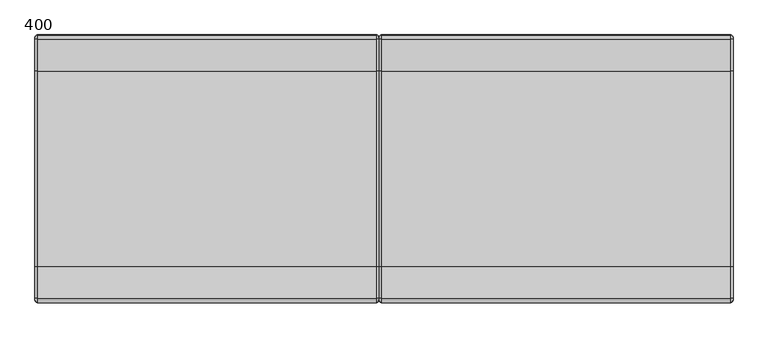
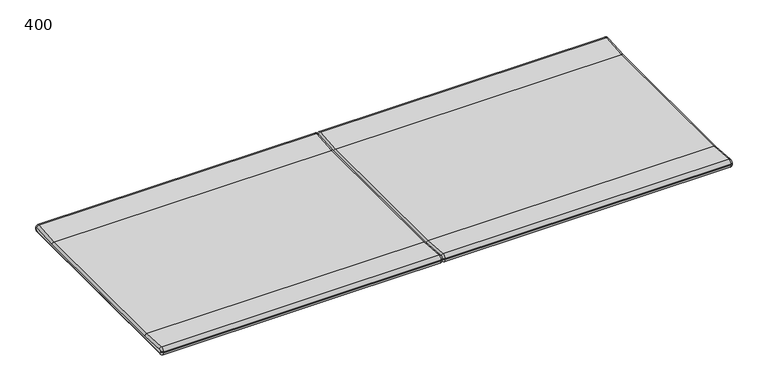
"""IFC4 building model written with IfcOpenShell, lengths in millimetres: furniture geometry, Vestre - Munch - 5106 : 400."""

from ifc_helpers import new_model, si_unit, point, frame, origin, place, context, project, spatial, polyline, circle_curve, ellipse_curve, trimmed, source, transform, mapped, element, save
from ifc_brep_helpers import plane_surface, cylinder_surface, revolved_surface, advanced_brep


def furniture_400_31e9071a(model_context):
    return source(origin(), model_context, "Body", "AdvancedBrep", [
        advanced_brep(
        [(-315.5, -176.912469, 423.2281613), (-315.5, 181.9050033, 423.2281613), (-315.5, 240.662188, 427.3368639), (-315.5, 243.3268041, 425.0638151), (-315.5, 243.5179109, 422.9090742), (-315.5, 241.2485472, 420.1979879), (-315.5, 240.4185407, 420.1243736), (-315.5, -235.4260063, 420.1243736), (-315.5, -236.2560129, 420.1979879), (-315.5, -238.5253765, 422.9090742), (-315.5, -238.3342698, 425.0638151), (-315.5, -235.6696536, 427.3368639), (315.5, 181.9050033, 423.2281613), (315.5, -176.912469, 423.2281613), (315.5, -235.6696536, 427.3368639), (315.5, -238.3342698, 425.0638151), (315.5, -238.5253765, 422.9090742), (315.5, -236.2560129, 420.1979879), (315.5, -235.4260063, 420.1243736), (315.5, 240.4185407, 420.1243736), (315.5, 241.2485472, 420.1979879), (315.5, 243.5179109, 422.9090742), (315.5, 243.3268041, 425.0638151), (315.5, 240.662188, 427.3368639), (310.5, 240.3134056, 432.3246842), (310.5, 248.307254, 425.5055377), (-310.5000007, 248.307254, 425.5055377), (-310.5, 240.3134056, 432.3246842), (310.5, 181.556221, 428.2159816), (-310.5, 181.556221, 428.2159816), (310.5, -176.5636866, 428.2159816), (-310.5, -176.5636866, 428.2159816), (310.5, -235.3208713, 432.3246842), (-310.5, -235.3208713, 432.3246842), (310.5, -243.3147197, 425.5055377), (-310.5, -243.3147197, 425.5055377), (310.5, -243.5058264, 423.3507968), (-310.5, -243.5058264, 423.3507968), (310.5, -235.8677289, 415.1439237), (310.5, -236.6977355, 415.217538), (-310.5, -236.6977355, 415.217538), (-310.5, -235.8677289, 415.1439237), (310.5, 240.8602632, 415.1439237), (-310.5, 240.8602632, 415.1439237), (310.5, 241.6902698, 415.217538), (-310.5, 241.6902698, 415.217538), (310.5, 248.4983608, 423.3507968), (-310.5, 248.4983608, 423.3507968)],
        [
            (0, 1, circle_curve(frame((-315.5, 2.4962672, 2988.8926207), z_axis=(1.0, 0.0, 0.0), x_axis=(0.0, -0.06975647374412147, -0.9975640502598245)), 2571.9295505)),
            (1, 2),
            (2, 3, circle_curve(frame((-315.5, 240.8365791, 424.8429538), z_axis=(-1.0, 0.0, 0.0), x_axis=(0.0, -0.06975647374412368, 0.9975640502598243)), 2.5)),
            (3, 4),
            (4, 5, circle_curve(frame((-315.5, 241.0276859, 422.6882129), z_axis=(-1.0, 0.0, 0.0), x_axis=(0.0, 0.996089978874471, 0.08834451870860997)), 2.5)),
            (5, 6),
            (6, 7, circle_curve(frame((-315.5, 2.4962672, 3102.7129013), z_axis=(-1.0, 0.0, 0.0), x_axis=(0.0, 0.08834451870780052, -0.9960899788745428)), 2693.1186787)),
            (7, 8),
            (8, 9, circle_curve(frame((-315.5, -236.0351516, 422.6882129), z_axis=(-1.0, 0.0, 0.0), x_axis=(0.0, -0.08834451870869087, -0.9960899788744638)), 2.5)),
            (9, 10),
            (10, 11, circle_curve(frame((-315.5, -235.8440448, 424.8429538), z_axis=(-1.0, 0.0, 0.0), x_axis=(0.0, -0.9960899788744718, 0.08834451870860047)), 2.5)),
            (11, 0),
            (12, 13, circle_curve(frame((315.5, 2.4962672, 2988.8926207), z_axis=(-1.0, 0.0, 0.0), x_axis=(0.0, -0.06975647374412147, -0.9975640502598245)), 2571.9295505)),
            (13, 14),
            (14, 15, circle_curve(frame((315.5, -235.8440448, 424.8429538), z_axis=(1.0, 0.0, 0.0), x_axis=(0.0, -0.9960899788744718, 0.08834451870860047)), 2.5)),
            (15, 16),
            (16, 17, circle_curve(frame((315.5, -236.0351516, 422.6882129), z_axis=(1.0, 0.0, 0.0), x_axis=(0.0, -0.08834451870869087, -0.9960899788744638)), 2.5)),
            (17, 18),
            (18, 19, circle_curve(frame((315.5, 2.4962672, 3102.7129013), z_axis=(1.0, 0.0, 0.0), x_axis=(0.0, 0.08834451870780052, -0.9960899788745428)), 2693.1186787)),
            (19, 20),
            (20, 21, circle_curve(frame((315.5, 241.0276859, 422.6882129), z_axis=(1.0, 0.0, 0.0), x_axis=(0.0, 0.996089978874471, 0.08834451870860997)), 2.5)),
            (21, 22),
            (22, 23, circle_curve(frame((315.5, 240.8365791, 424.8429538), z_axis=(1.0, 0.0, 0.0), x_axis=(0.0, -0.06975647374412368, 0.9975640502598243)), 2.5)),
            (23, 12),
            (24, 25, circle_curve(frame((310.5, 240.8365791, 424.8429538), z_axis=(-1.0, 0.0, 0.0), x_axis=(0.0, -1.0, 0.0)), 7.5)),
            (25, 26),
            (26, 27, circle_curve(frame((-310.5, 240.8365791, 424.8429538), z_axis=(1.0, 0.0, 0.0), x_axis=(0.0, -1.0, 0.0)), 7.5)),
            (27, 24),
            (28, 24),
            (27, 29),
            (29, 28),
            (30, 28, circle_curve(frame((310.5, 2.4962672, 2988.8926207), z_axis=(1.0, 0.0, 0.0), x_axis=(0.0, -1.0, 0.0)), 2566.9295505)),
            (29, 31, circle_curve(frame((-310.5, 2.4962672, 2988.8926207), z_axis=(-1.0, 0.0, 0.0), x_axis=(0.0, -1.0, 0.0)), 2566.9295505)),
            (31, 30),
            (32, 30),
            (31, 33),
            (33, 32),
            (34, 32, circle_curve(frame((310.5, -235.8440448, 424.8429538), z_axis=(-1.0, 0.0, 0.0), x_axis=(0.0, -1.0, 0.0)), 7.5)),
            (33, 35, circle_curve(frame((-310.5, -235.8440448, 424.8429538), z_axis=(1.0, 0.0, 0.0), x_axis=(0.0, -1.0, 0.0)), 7.5)),
            (35, 34),
            (36, 34),
            (35, 37),
            (37, 36),
            (38, 39),
            (39, 40),
            (40, 41),
            (41, 38),
            (42, 38, circle_curve(frame((310.5, 2.4962672, 3102.7129013), z_axis=(-1.0, 0.0, 0.0), x_axis=(0.0, -1.0, 0.0)), 2698.1186787)),
            (41, 43, circle_curve(frame((-310.5, 2.4962672, 3102.7129013), z_axis=(1.0, 0.0, 0.0), x_axis=(0.0, -1.0, 0.0)), 2698.1186787)),
            (43, 42),
            (44, 42),
            (43, 45),
            (45, 44),
            (25, 46),
            (46, 47),
            (47, 26),
            (39, 36, circle_curve(frame((310.5, -236.0351516, 422.6882129), z_axis=(-1.0, 0.0, 0.0), x_axis=(0.0, -1.0, 0.0)), 7.5)),
            (37, 40, circle_curve(frame((-310.5, -236.0351516, 422.6882129), z_axis=(1.0, 0.0, 0.0), x_axis=(0.0, -1.0, 0.0)), 7.5)),
            (46, 44, circle_curve(frame((310.5, 241.0276859, 422.6882129), z_axis=(-1.0, 0.0, 0.0), x_axis=(0.0, -1.0, 0.0)), 7.5)),
            (45, 47, circle_curve(frame((-310.5, 241.0276859, 422.6882129), z_axis=(1.0, 0.0, 0.0), x_axis=(0.0, -1.0, 0.0)), 7.5)),
            (12, 28, circle_curve(frame((310.5, 181.9050033, 423.2281613), z_axis=(0.0, -0.9975640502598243, -0.06975647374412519), x_axis=(-1.0, 0.0, 0.0)), 5.0)),
            (30, 13, circle_curve(frame((310.5, -176.912469, 423.2281613), z_axis=(0.0, 0.9975640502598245, -0.06975647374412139), x_axis=(-1.0, 0.0, 0.0)), 5.0)),
            (23, 24, circle_curve(frame((310.5, 240.662188, 427.3368639), z_axis=(0.0, -0.9975640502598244, -0.06975647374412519), x_axis=(-1.0, 0.0, 0.0)), 5.0)),
            (22, 25, circle_curve(frame((310.5, 243.3268041, 425.0638151), z_axis=(0.0, -0.08834451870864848, 0.9960899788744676), x_axis=(-1.0, 0.0, 0.0)), 5.0)),
            (21, 46, circle_curve(frame((310.5, 243.5179109, 422.9090742), z_axis=(0.0, -0.08834451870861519, 0.9960899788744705), x_axis=(-1.0, 0.0, 0.0)), 5.0)),
            (20, 44, circle_curve(frame((310.5, 241.2485472, 420.1979879), z_axis=(0.0, 0.996089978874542, 0.08834451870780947), x_axis=(-1.0, 0.0, 0.0)), 5.0)),
            (19, 42, circle_curve(frame((310.5, 240.4185407, 420.1243736), z_axis=(0.0, 0.9960899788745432, 0.08834451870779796), x_axis=(-1.0, 0.0, 0.0)), 5.0)),
            (18, 38, circle_curve(frame((310.5, -235.4260063, 420.1243736), z_axis=(0.0, 0.996089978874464, -0.08834451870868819), x_axis=(-1.0, 0.0, 0.0)), 5.0)),
            (17, 39, circle_curve(frame((310.5, -236.2560129, 420.1979879), z_axis=(0.0, 0.9960899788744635, -0.08834451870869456), x_axis=(-1.0, 0.0, 0.0)), 5.0)),
            (16, 36, circle_curve(frame((310.5, -238.5253765, 422.9090742), z_axis=(0.0, -0.08834451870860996, -0.996089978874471), x_axis=(-1.0, 0.0, 0.0)), 5.0)),
            (15, 34, circle_curve(frame((310.5, -238.3342698, 425.0638151), z_axis=(0.0, -0.08834451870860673, -0.9960899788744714), x_axis=(-1.0, 0.0, 0.0)), 5.0)),
            (14, 32, circle_curve(frame((310.5, -235.6696536, 427.3368639), z_axis=(0.0, -0.9975640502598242, 0.06975647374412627), x_axis=(-1.0, 0.0, 0.0)), 5.0)),
            (29, 1, circle_curve(frame((-310.5, 181.9050033, 423.2281613), z_axis=(0.0, -0.9975640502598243, -0.06975647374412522), x_axis=(1.0, 0.0, 0.0)), 5.0)),
            (0, 31, circle_curve(frame((-310.5, -176.912469, 423.2281613), z_axis=(0.0, 0.9975640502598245, -0.06975647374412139), x_axis=(1.0, 0.0, 0.0)), 5.0)),
            (27, 2, circle_curve(frame((-310.5, 240.662188, 427.3368639), z_axis=(0.0, -0.9975640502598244, -0.06975647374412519), x_axis=(1.0, 0.0, 0.0)), 5.0)),
            (26, 3, circle_curve(frame((-310.5, 243.3268041, 425.0638151), z_axis=(0.0, -0.08834451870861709, 0.9960899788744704), x_axis=(1.0, 0.0, 0.0)), 5.0)),
            (47, 4, circle_curve(frame((-310.5, 243.5179109, 422.9090742), z_axis=(0.0, -0.08834451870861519, 0.9960899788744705), x_axis=(1.0, 0.0, 0.0)), 5.0)),
            (45, 5, circle_curve(frame((-310.5, 241.2485472, 420.1979879), z_axis=(0.0, 0.9960899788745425, 0.08834451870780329), x_axis=(1.0, 0.0, 0.0)), 5.0)),
            (43, 6, circle_curve(frame((-310.5, 240.4185407, 420.1243736), z_axis=(0.0, 0.9960899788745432, 0.08834451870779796), x_axis=(1.0, 0.0, 0.0)), 5.0)),
            (41, 7, circle_curve(frame((-310.5, -235.4260063, 420.1243736), z_axis=(0.0, 0.996089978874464, -0.08834451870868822), x_axis=(1.0, 0.0, 0.0)), 5.0)),
            (40, 8, circle_curve(frame((-310.5, -236.2560129, 420.1979879), z_axis=(0.0, 0.9960899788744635, -0.08834451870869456), x_axis=(1.0, 0.0, 0.0)), 5.0)),
            (37, 9, circle_curve(frame((-310.5, -238.5253765, 422.9090742), z_axis=(0.0, -0.08834451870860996, -0.996089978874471), x_axis=(1.0, 0.0, 0.0)), 5.0)),
            (35, 10, circle_curve(frame((-310.5, -238.3342698, 425.0638151), z_axis=(0.0, -0.08834451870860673, -0.9960899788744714), x_axis=(1.0, 0.0, 0.0)), 5.0)),
            (33, 11, circle_curve(frame((-310.5, -235.6696536, 427.3368639), z_axis=(0.0, -0.9975640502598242, 0.06975647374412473), x_axis=(1.0, 0.0, 0.0)), 5.0)),
        ],
        [
            plane_surface(frame((-315.5, 248.4104415, 424.3420918), z_axis=(-1.0, 0.0, 0.0), x_axis=(0.0, 0.08834451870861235, -0.9960899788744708))),
            plane_surface(frame((315.5, 248.4104415, 424.3420918), z_axis=(1.0, 0.0, 0.0), x_axis=(0.0, -0.08834451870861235, 0.9960899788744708))),
            cylinder_surface(frame((315.5, 240.8365791, 424.8429538), z_axis=(-1.0, 0.0, 0.0), x_axis=(0.0, -1.0, 0.0)), 7.5),
            plane_surface(frame((-315.5, 181.556221, 428.2159816), z_axis=(0.0, -0.06975647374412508, 0.9975640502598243), x_axis=(1.0, 0.0, 0.0))),
            revolved_surface(polyline([(310.5, -2564.4332833, 2988.8926207), (-310.5, -2564.4332833, 2988.8926207)]), (315.5, 2.4962672, 2988.8926207), (1.0, 0.0, 0.0)),
            plane_surface(frame((-315.5, -235.3208713, 432.3246842), z_axis=(0.0, 0.06975647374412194, 0.9975640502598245), x_axis=(1.0, 0.0, 0.0))),
            cylinder_surface(frame((315.5, -235.8440448, 424.8429538), z_axis=(-1.0, 0.0, 0.0), x_axis=(0.0, -1.0, 0.0)), 7.5),
            plane_surface(frame((-315.5, -243.5058264, 423.3507968), z_axis=(0.0, -0.9960899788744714, 0.08834451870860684), x_axis=(1.0, 0.0, 0.0))),
            plane_surface(frame((-315.5, -235.8677289, 415.1439237), z_axis=(0.0, -0.08834451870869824, -0.9960899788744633), x_axis=(1.0, 0.0, 0.0))),
            cylinder_surface(frame((315.5, 2.4962672, 3102.7129013), z_axis=(-1.0, 0.0, 0.0), x_axis=(0.0, -1.0, 0.0)), 2698.1186787),
            plane_surface(frame((-315.5, 241.6902698, 415.217538), z_axis=(0.0, 0.08834451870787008, -0.9960899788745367), x_axis=(1.0, 0.0, 0.0))),
            plane_surface(frame((-315.5, 248.307254, 425.5055377), z_axis=(0.0, 0.9960899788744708, 0.08834451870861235), x_axis=(1.0, 0.0, 0.0))),
            cylinder_surface(frame((315.5, -236.0351516, 422.6882129), z_axis=(-1.0, 0.0, 0.0), x_axis=(0.0, -1.0, 0.0)), 7.5),
            cylinder_surface(frame((315.5, 241.0276859, 422.6882129), z_axis=(-1.0, 0.0, 0.0), x_axis=(0.0, -1.0, 0.0)), 7.5),
            revolved_surface(trimmed(ellipse_curve(frame((310.5, -176.912469, 423.2281613), z_axis=(0.0, -0.9975640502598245, 0.06975647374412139), x_axis=(-1.0, 0.0, 0.0)), 5.0, 5.0), [point((315.5, -176.912469, 423.2281613))], [point((310.5, -176.5636866, 428.2159816))], True, "CARTESIAN"), (315.5, 2.4962672, 2988.8926207), (1.0, 0.0, 0.0)),
            cylinder_surface(frame((310.5, 181.9050033, 423.2281613), z_axis=(0.0, 0.9975640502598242, 0.06975647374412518), x_axis=(-1.0, 0.0, 0.0)), 5.0),
            revolved_surface(trimmed(ellipse_curve(frame((310.5, 240.662188, 427.3368639), z_axis=(0.0, -0.9975640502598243, -0.06975647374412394), x_axis=(-1.0, 0.0, 0.0)), 5.0, 5.0), [point((315.5, 240.662188, 427.3368639))], [point((310.5, 240.3134056, 432.3246842))], True, "CARTESIAN"), (315.5, 240.8365791, 424.8429538), (-1.0, 0.0, 0.0)),
            cylinder_surface(frame((310.5, 243.3268041, 425.0638151), z_axis=(0.0, 0.08834451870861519, -0.9960899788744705), x_axis=(-1.0, 0.0, 0.0)), 5.0),
            revolved_surface(trimmed(ellipse_curve(frame((310.5, 243.5179109, 422.9090742), z_axis=(0.0, -0.08834451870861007, 0.996089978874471), x_axis=(-1.0, 0.0, 0.0)), 5.0, 5.0), [point((315.5, 243.5179109, 422.9090742))], [point((310.5, 248.4983608, 423.3507968))], True, "CARTESIAN"), (315.5, 241.0276859, 422.6882129), (-1.0, 0.0, 0.0)),
            cylinder_surface(frame((310.5, 241.2485472, 420.1979879), z_axis=(0.0, -0.996089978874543, -0.08834451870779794), x_axis=(-1.0, 0.0, 0.0)), 5.0),
            revolved_surface(trimmed(ellipse_curve(frame((310.5, 240.4185407, 420.1243736), z_axis=(0.0, 0.9960899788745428, 0.08834451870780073), x_axis=(-1.0, 0.0, 0.0)), 5.0, 5.0), [point((315.5, 240.4185407, 420.1243736))], [point((310.5, 240.8602632, 415.1439237))], True, "CARTESIAN"), (315.5, 2.4962672, 3102.7129013), (-1.0, 0.0, 0.0)),
            cylinder_surface(frame((310.5, -235.4260063, 420.1243736), z_axis=(0.0, -0.9960899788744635, 0.08834451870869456), x_axis=(-1.0, 0.0, 0.0)), 5.0),
            revolved_surface(trimmed(ellipse_curve(frame((310.5, -236.2560129, 420.1979879), z_axis=(0.0, 0.9960899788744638, -0.08834451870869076), x_axis=(-1.0, 0.0, 0.0)), 5.0, 5.0), [point((315.5, -236.2560129, 420.1979879))], [point((310.5, -236.6977355, 415.217538))], True, "CARTESIAN"), (315.5, -236.0351516, 422.6882129), (-1.0, 0.0, 0.0)),
            cylinder_surface(frame((310.5, -238.5253765, 422.9090742), z_axis=(0.0, 0.08834451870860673, 0.9960899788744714), x_axis=(-1.0, 0.0, 0.0)), 5.0),
            revolved_surface(trimmed(ellipse_curve(frame((310.5, -238.3342698, 425.0638151), z_axis=(0.0, -0.08834451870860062, -0.9960899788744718), x_axis=(-1.0, 0.0, 0.0)), 5.0, 5.0), [point((315.5, -238.3342698, 425.0638151))], [point((310.5, -243.3147197, 425.5055377))], True, "CARTESIAN"), (315.5, -235.8440448, 424.8429538), (-1.0, 0.0, 0.0)),
            cylinder_surface(frame((310.5, -235.6696536, 427.3368639), z_axis=(0.0, 0.9975640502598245, -0.06975647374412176), x_axis=(-1.0, 0.0, 0.0)), 5.0),
            revolved_surface(trimmed(ellipse_curve(frame((-310.5, -176.912469, 423.2281613), z_axis=(0.0, -0.9975640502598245, 0.06975647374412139), x_axis=(1.0, 0.0, 0.0)), 5.0, 5.0), [point((-310.5, -176.5636866, 428.2159816))], [point((-315.5, -176.912469, 423.2281613))], True, "CARTESIAN"), (-315.5, 2.4962672, 2988.8926207), (1.0, 0.0, 0.0)),
            cylinder_surface(frame((-310.5, 181.9050033, 423.2281613), z_axis=(0.0, 0.9975640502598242, 0.06975647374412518), x_axis=(1.0, 0.0, 0.0)), 5.0),
            revolved_surface(trimmed(ellipse_curve(frame((-310.5, 240.662188, 427.3368639), z_axis=(0.0, -0.9975640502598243, -0.06975647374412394), x_axis=(1.0, 0.0, 0.0)), 5.0, 5.0), [point((-310.5, 240.3134056, 432.3246842))], [point((-315.5, 240.662188, 427.3368639))], True, "CARTESIAN"), (-315.5, 240.8365791, 424.8429538), (-1.0, 0.0, 0.0)),
            cylinder_surface(frame((-310.5, 243.3268041, 425.0638151), z_axis=(0.0, 0.08834451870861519, -0.9960899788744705), x_axis=(1.0, 0.0, 0.0)), 5.0),
            revolved_surface(trimmed(ellipse_curve(frame((-310.5, 243.5179109, 422.9090742), z_axis=(0.0, -0.08834451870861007, 0.996089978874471), x_axis=(1.0, 0.0, 0.0)), 5.0, 5.0), [point((-310.5, 248.4983608, 423.3507968))], [point((-315.5, 243.5179109, 422.9090742))], True, "CARTESIAN"), (-315.5, 241.0276859, 422.6882129), (-1.0, 0.0, 0.0)),
            cylinder_surface(frame((-310.5, 241.2485472, 420.1979879), z_axis=(0.0, -0.996089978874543, -0.08834451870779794), x_axis=(1.0, 0.0, 0.0)), 5.0),
            revolved_surface(trimmed(ellipse_curve(frame((-310.5, 240.4185407, 420.1243736), z_axis=(0.0, 0.9960899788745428, 0.08834451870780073), x_axis=(1.0, 0.0, 0.0)), 5.0, 5.0), [point((-310.5, 240.8602632, 415.1439237))], [point((-315.5, 240.4185407, 420.1243736))], True, "CARTESIAN"), (-315.5, 2.4962672, 3102.7129013), (-1.0, 0.0, 0.0)),
            cylinder_surface(frame((-310.5, -235.4260063, 420.1243736), z_axis=(0.0, -0.9960899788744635, 0.08834451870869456), x_axis=(1.0, 0.0, 0.0)), 5.0),
            revolved_surface(trimmed(ellipse_curve(frame((-310.5, -236.2560129, 420.1979879), z_axis=(0.0, 0.9960899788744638, -0.08834451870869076), x_axis=(1.0, 0.0, 0.0)), 5.0, 5.0), [point((-310.5, -236.6977355, 415.217538))], [point((-315.5, -236.2560129, 420.1979879))], True, "CARTESIAN"), (-315.5, -236.0351516, 422.6882129), (-1.0, 0.0, 0.0)),
            cylinder_surface(frame((-310.5, -238.5253765, 422.9090742), z_axis=(0.0, 0.08834451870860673, 0.9960899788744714), x_axis=(1.0, 0.0, 0.0)), 5.0),
            revolved_surface(trimmed(ellipse_curve(frame((-310.5, -238.3342698, 425.0638151), z_axis=(0.0, -0.08834451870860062, -0.9960899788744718), x_axis=(1.0, 0.0, 0.0)), 5.0, 5.0), [point((-310.5, -243.3147197, 425.5055377))], [point((-315.5, -238.3342698, 425.0638151))], True, "CARTESIAN"), (-315.5, -235.8440448, 424.8429538), (-1.0, 0.0, 0.0)),
            cylinder_surface(frame((-310.5, -235.6696536, 427.3368639), z_axis=(0.0, 0.9975640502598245, -0.06975647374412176), x_axis=(1.0, 0.0, 0.0)), 5.0),
        ],
        [
            (0, [[1, 2, 3, 4, 5, 6, 7, 8, 9, 10, 11, 12]]),
            (1, [[13, 14, 15, 16, 17, 18, 19, 20, 21, 22, 23, 24]]),
            (2, [[25, 26, 27, 28]]),
            (3, [[29, -28, 30, 31]]),
            (4, [[32, -31, 33, 34]]),
            (5, [[35, -34, 36, 37]]),
            (6, [[38, -37, 39, 40]]),
            (7, [[41, -40, 42, 43]]),
            (8, [[44, 45, 46, 47]]),
            (9, [[48, -47, 49, 50]]),
            (10, [[51, -50, 52, 53]]),
            (11, [[54, 55, 56, -26]]),
            (12, [[57, -43, 58, -45]]),
            (13, [[59, -53, 60, -55]]),
            (14, [[61, -32, 62, -13]]),
            (15, [[-61, -24, 63, -29]]),
            (16, [[-63, -23, 64, -25]]),
            (17, [[-64, -22, 65, -54]]),
            (18, [[-65, -21, 66, -59]]),
            (19, [[-66, -20, 67, -51]]),
            (20, [[-67, -19, 68, -48]]),
            (21, [[-68, -18, 69, -44]]),
            (22, [[-69, -17, 70, -57]]),
            (23, [[-70, -16, 71, -41]]),
            (24, [[-71, -15, 72, -38]]),
            (25, [[-62, -35, -72, -14]]),
            (26, [[73, -1, 74, -33]]),
            (27, [[-73, -30, 75, -2]]),
            (28, [[-75, -27, 76, -3]]),
            (29, [[-76, -56, 77, -4]]),
            (30, [[-77, -60, 78, -5]]),
            (31, [[-78, -52, 79, -6]]),
            (32, [[-79, -49, 80, -7]]),
            (33, [[-80, -46, 81, -8]]),
            (34, [[-81, -58, 82, -9]]),
            (35, [[-82, -42, 83, -10]]),
            (36, [[-83, -39, 84, -11]]),
            (37, [[-74, -12, -84, -36]]),
        ],
    ),
        advanced_brep(
        [(315.5, -176.912469, 423.2281613), (315.5, 181.9050033, 423.2281613), (315.5, 240.662188, 427.3368639), (315.5, 243.3268041, 425.0638151), (315.5, 243.5179109, 422.9090742), (315.5, 241.2485472, 420.1979879), (315.5, 240.4185407, 420.1243736), (315.5, -235.4260063, 420.1243736), (315.5, -236.2560129, 420.1979879), (315.5, -238.5253765, 422.9090742), (315.5, -238.3342698, 425.0638151), (315.5, -235.6696536, 427.3368639), (965.1060612, 181.9050033, 423.2281613), (965.1060612, -176.912469, 423.2281613), (965.1060612, -235.6696536, 427.3368639), (965.1060612, -238.3342698, 425.0638151), (965.1060612, -238.5253765, 422.9090742), (965.1060612, -236.2560129, 420.1979879), (965.1060612, -235.4260063, 420.1243736), (965.1060612, 240.4185407, 420.1243736), (965.1060612, 241.2485472, 420.1979879), (965.1060612, 243.5179109, 422.9090742), (965.1060612, 243.3268041, 425.0638151), (965.1060612, 240.662188, 427.3368639), (960.1060612, 240.3134056, 432.3246842), (960.1060612, 248.307254, 425.5055377), (320.4999979, 248.307254, 425.5055377), (320.5, 240.3134056, 432.3246842), (960.1060612, 181.556221, 428.2159816), (320.5, 181.556221, 428.2159816), (960.1060612, -176.5636866, 428.2159816), (320.5, -176.5636866, 428.2159816), (960.1060612, -235.3208713, 432.3246842), (320.5, -235.3208713, 432.3246842), (960.1060612, -243.3147197, 425.5055377), (320.5, -243.3147197, 425.5055377), (960.1060612, -243.5058264, 423.3507968), (320.5, -243.5058264, 423.3507968), (960.1060612, -235.8677289, 415.1439237), (960.1060612, -236.6977355, 415.217538), (320.5, -236.6977355, 415.217538), (320.5, -235.8677289, 415.1439237), (960.1060612, 240.8602632, 415.1439237), (320.5, 240.8602632, 415.1439237), (960.1060612, 241.6902698, 415.217538), (320.5, 241.6902698, 415.217538), (960.1060612, 248.4983608, 423.3507968), (320.5, 248.4983608, 423.3507968)],
        [
            (0, 1, circle_curve(frame((315.5, 2.4962672, 2988.8926207), z_axis=(1.0, 0.0, 0.0), x_axis=(0.0, -0.06975647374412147, -0.9975640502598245)), 2571.9295505)),
            (1, 2),
            (2, 3, circle_curve(frame((315.5, 240.8365791, 424.8429538), z_axis=(-1.0, 0.0, 0.0), x_axis=(0.0, -0.06975647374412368, 0.9975640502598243)), 2.5)),
            (3, 4),
            (4, 5, circle_curve(frame((315.5, 241.0276859, 422.6882129), z_axis=(-1.0, 0.0, 0.0), x_axis=(0.0, 0.996089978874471, 0.08834451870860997)), 2.5)),
            (5, 6),
            (6, 7, circle_curve(frame((315.5, 2.4962672, 3102.7129013), z_axis=(-1.0, 0.0, 0.0), x_axis=(0.0, 0.08834451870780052, -0.9960899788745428)), 2693.1186787)),
            (7, 8),
            (8, 9, circle_curve(frame((315.5, -236.0351516, 422.6882129), z_axis=(-1.0, 0.0, 0.0), x_axis=(0.0, -0.08834451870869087, -0.9960899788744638)), 2.5)),
            (9, 10),
            (10, 11, circle_curve(frame((315.5, -235.8440448, 424.8429538), z_axis=(-1.0, 0.0, 0.0), x_axis=(0.0, -0.9960899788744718, 0.08834451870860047)), 2.5)),
            (11, 0),
            (12, 13, circle_curve(frame((965.1060612, 2.4962672, 2988.8926207), z_axis=(-1.0, 0.0, 0.0), x_axis=(0.0, -0.06975647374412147, -0.9975640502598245)), 2571.9295505)),
            (13, 14),
            (14, 15, circle_curve(frame((965.1060612, -235.8440448, 424.8429538), z_axis=(1.0, 0.0, 0.0), x_axis=(0.0, -0.9960899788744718, 0.08834451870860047)), 2.5)),
            (15, 16),
            (16, 17, circle_curve(frame((965.1060612, -236.0351516, 422.6882129), z_axis=(1.0, 0.0, 0.0), x_axis=(0.0, -0.08834451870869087, -0.9960899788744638)), 2.5)),
            (17, 18),
            (18, 19, circle_curve(frame((965.1060612, 2.4962672, 3102.7129013), z_axis=(1.0, 0.0, 0.0), x_axis=(0.0, 0.08834451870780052, -0.9960899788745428)), 2693.1186787)),
            (19, 20),
            (20, 21, circle_curve(frame((965.1060612, 241.0276859, 422.6882129), z_axis=(1.0, 0.0, 0.0), x_axis=(0.0, 0.996089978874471, 0.08834451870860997)), 2.5)),
            (21, 22),
            (22, 23, circle_curve(frame((965.1060612, 240.8365791, 424.8429538), z_axis=(1.0, 0.0, 0.0), x_axis=(0.0, -0.06975647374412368, 0.9975640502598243)), 2.5)),
            (23, 12),
            (24, 25, circle_curve(frame((960.1060612, 240.8365791, 424.8429538), z_axis=(-1.0, 0.0, 0.0), x_axis=(0.0, -1.0, 0.0)), 7.5)),
            (25, 26),
            (26, 27, circle_curve(frame((320.5, 240.8365791, 424.8429538), z_axis=(1.0, 0.0, 0.0), x_axis=(0.0, -1.0, 0.0)), 7.5)),
            (27, 24),
            (28, 24),
            (27, 29),
            (29, 28),
            (30, 28, circle_curve(frame((960.1060612, 2.4962672, 2988.8926207), z_axis=(1.0, 0.0, 0.0), x_axis=(0.0, -1.0, 0.0)), 2566.9295505)),
            (29, 31, circle_curve(frame((320.5, 2.4962672, 2988.8926207), z_axis=(-1.0, 0.0, 0.0), x_axis=(0.0, -1.0, 0.0)), 2566.9295505)),
            (31, 30),
            (32, 30),
            (31, 33),
            (33, 32),
            (34, 32, circle_curve(frame((960.1060612, -235.8440448, 424.8429538), z_axis=(-1.0, 0.0, 0.0), x_axis=(0.0, -1.0, 0.0)), 7.5)),
            (33, 35, circle_curve(frame((320.5, -235.8440448, 424.8429538), z_axis=(1.0, 0.0, 0.0), x_axis=(0.0, -1.0, 0.0)), 7.5)),
            (35, 34),
            (36, 34),
            (35, 37),
            (37, 36),
            (38, 39),
            (39, 40),
            (40, 41),
            (41, 38),
            (42, 38, circle_curve(frame((960.1060612, 2.4962672, 3102.7129013), z_axis=(-1.0, 0.0, 0.0), x_axis=(0.0, -1.0, 0.0)), 2698.1186787)),
            (41, 43, circle_curve(frame((320.5, 2.4962672, 3102.7129013), z_axis=(1.0, 0.0, 0.0), x_axis=(0.0, -1.0, 0.0)), 2698.1186787)),
            (43, 42),
            (44, 42),
            (43, 45),
            (45, 44),
            (25, 46),
            (46, 47),
            (47, 26),
            (39, 36, circle_curve(frame((960.1060612, -236.0351516, 422.6882129), z_axis=(-1.0, 0.0, 0.0), x_axis=(0.0, -1.0, 0.0)), 7.5)),
            (37, 40, circle_curve(frame((320.5, -236.0351516, 422.6882129), z_axis=(1.0, 0.0, 0.0), x_axis=(0.0, -1.0, 0.0)), 7.5)),
            (46, 44, circle_curve(frame((960.1060612, 241.0276859, 422.6882129), z_axis=(-1.0, 0.0, 0.0), x_axis=(0.0, -1.0, 0.0)), 7.5)),
            (45, 47, circle_curve(frame((320.5, 241.0276859, 422.6882129), z_axis=(1.0, 0.0, 0.0), x_axis=(0.0, -1.0, 0.0)), 7.5)),
            (12, 28, circle_curve(frame((960.1060612, 181.9050033, 423.2281613), z_axis=(0.0, -0.9975640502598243, -0.06975647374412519), x_axis=(-1.0, 0.0, 0.0)), 5.0)),
            (30, 13, circle_curve(frame((960.1060612, -176.912469, 423.2281613), z_axis=(0.0, 0.9975640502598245, -0.06975647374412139), x_axis=(-1.0, 0.0, 0.0)), 5.0)),
            (23, 24, circle_curve(frame((960.1060612, 240.662188, 427.3368639), z_axis=(0.0, -0.9975640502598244, -0.06975647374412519), x_axis=(-1.0, 0.0, 0.0)), 5.0)),
            (22, 25, circle_curve(frame((960.1060612, 243.3268041, 425.0638151), z_axis=(0.0, -0.08834451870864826, 0.9960899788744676), x_axis=(-1.0, 0.0, 0.0)), 5.0)),
            (21, 46, circle_curve(frame((960.1060612, 243.5179109, 422.9090742), z_axis=(0.0, -0.08834451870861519, 0.9960899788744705), x_axis=(-1.0, 0.0, 0.0)), 5.0)),
            (20, 44, circle_curve(frame((960.1060612, 241.2485472, 420.1979879), z_axis=(0.0, 0.9960899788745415, 0.08834451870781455), x_axis=(-1.0, 0.0, 0.0)), 5.0)),
            (19, 42, circle_curve(frame((960.1060612, 240.4185407, 420.1243736), z_axis=(0.0, 0.9960899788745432, 0.08834451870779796), x_axis=(-1.0, 0.0, 0.0)), 5.0)),
            (18, 38, circle_curve(frame((960.1060612, -235.4260063, 420.1243736), z_axis=(0.0, 0.996089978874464, -0.08834451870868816), x_axis=(-1.0, 0.0, 0.0)), 5.0)),
            (17, 39, circle_curve(frame((960.1060612, -236.2560129, 420.1979879), z_axis=(0.0, 0.9960899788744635, -0.08834451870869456), x_axis=(-1.0, 0.0, 0.0)), 5.0)),
            (16, 36, circle_curve(frame((960.1060612, -238.5253765, 422.9090742), z_axis=(0.0, -0.08834451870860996, -0.996089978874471), x_axis=(-1.0, 0.0, 0.0)), 5.0)),
            (15, 34, circle_curve(frame((960.1060612, -238.3342698, 425.0638151), z_axis=(0.0, -0.08834451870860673, -0.9960899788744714), x_axis=(-1.0, 0.0, 0.0)), 5.0)),
            (14, 32, circle_curve(frame((960.1060612, -235.6696536, 427.3368639), z_axis=(0.0, -0.9975640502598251, 0.0697564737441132), x_axis=(-1.0, 0.0, 0.0)), 5.0)),
            (29, 1, circle_curve(frame((320.5, 181.9050033, 423.2281613), z_axis=(0.0, -0.9975640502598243, -0.06975647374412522), x_axis=(1.0, 0.0, 0.0)), 5.0)),
            (0, 31, circle_curve(frame((320.5, -176.912469, 423.2281613), z_axis=(0.0, 0.9975640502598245, -0.06975647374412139), x_axis=(1.0, 0.0, 0.0)), 5.0)),
            (27, 2, circle_curve(frame((320.5, 240.662188, 427.3368639), z_axis=(0.0, -0.9975640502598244, -0.06975647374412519), x_axis=(1.0, 0.0, 0.0)), 5.0)),
            (26, 3, circle_curve(frame((320.5, 243.3268041, 425.0638151), z_axis=(0.0, -0.08834451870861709, 0.9960899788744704), x_axis=(1.0, 0.0, 0.0)), 5.0)),
            (47, 4, circle_curve(frame((320.5, 243.5179109, 422.9090742), z_axis=(0.0, -0.08834451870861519, 0.9960899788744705), x_axis=(1.0, 0.0, 0.0)), 5.0)),
            (45, 5, circle_curve(frame((320.5, 241.2485472, 420.1979879), z_axis=(0.0, 0.9960899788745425, 0.08834451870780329), x_axis=(1.0, 0.0, 0.0)), 5.0)),
            (43, 6, circle_curve(frame((320.5, 240.4185407, 420.1243736), z_axis=(0.0, 0.9960899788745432, 0.08834451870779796), x_axis=(1.0, 0.0, 0.0)), 5.0)),
            (41, 7, circle_curve(frame((320.5, -235.4260063, 420.1243736), z_axis=(0.0, 0.996089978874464, -0.08834451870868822), x_axis=(1.0, 0.0, 0.0)), 5.0)),
            (40, 8, circle_curve(frame((320.5, -236.2560129, 420.1979879), z_axis=(0.0, 0.9960899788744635, -0.08834451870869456), x_axis=(1.0, 0.0, 0.0)), 5.0)),
            (37, 9, circle_curve(frame((320.5, -238.5253765, 422.9090742), z_axis=(0.0, -0.08834451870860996, -0.996089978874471), x_axis=(1.0, 0.0, 0.0)), 5.0)),
            (35, 10, circle_curve(frame((320.5, -238.3342698, 425.0638151), z_axis=(0.0, -0.08834451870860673, -0.9960899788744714), x_axis=(1.0, 0.0, 0.0)), 5.0)),
            (33, 11, circle_curve(frame((320.5, -235.6696536, 427.3368639), z_axis=(0.0, -0.9975640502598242, 0.06975647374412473), x_axis=(1.0, 0.0, 0.0)), 5.0)),
        ],
        [
            plane_surface(frame((315.5, 248.4104415, 424.3420918), z_axis=(-1.0, 0.0, 0.0), x_axis=(0.0, 0.08834451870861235, -0.9960899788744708))),
            plane_surface(frame((965.1060612, 248.4104415, 424.3420918), z_axis=(1.0, 0.0, 0.0), x_axis=(0.0, -0.08834451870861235, 0.9960899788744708))),
            cylinder_surface(frame((965.1060612, 240.8365791, 424.8429538), z_axis=(-1.0, 0.0, 0.0), x_axis=(0.0, -1.0, 0.0)), 7.5),
            plane_surface(frame((315.5, 181.556221, 428.2159816), z_axis=(0.0, -0.06975647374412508, 0.9975640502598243), x_axis=(1.0, 0.0, 0.0))),
            revolved_surface(polyline([(960.1060612, -2564.4332833, 2988.8926207), (320.5, -2564.4332833, 2988.8926207)]), (965.1060612, 2.4962672, 2988.8926207), (1.0, 0.0, 0.0)),
            plane_surface(frame((315.5, -235.3208713, 432.3246842), z_axis=(0.0, 0.06975647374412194, 0.9975640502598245), x_axis=(1.0, 0.0, 0.0))),
            cylinder_surface(frame((965.1060612, -235.8440448, 424.8429538), z_axis=(-1.0, 0.0, 0.0), x_axis=(0.0, -1.0, 0.0)), 7.5),
            plane_surface(frame((315.5, -243.5058264, 423.3507968), z_axis=(0.0, -0.9960899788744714, 0.08834451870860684), x_axis=(1.0, 0.0, 0.0))),
            plane_surface(frame((315.5, -235.8677289, 415.1439237), z_axis=(0.0, -0.08834451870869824, -0.9960899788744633), x_axis=(1.0, 0.0, 0.0))),
            cylinder_surface(frame((965.1060612, 2.4962672, 3102.7129013), z_axis=(-1.0, 0.0, 0.0), x_axis=(0.0, -1.0, 0.0)), 2698.1186787),
            plane_surface(frame((315.5, 241.6902698, 415.217538), z_axis=(0.0, 0.08834451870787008, -0.9960899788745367), x_axis=(1.0, 0.0, 0.0))),
            plane_surface(frame((315.5, 248.307254, 425.5055377), z_axis=(0.0, 0.9960899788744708, 0.08834451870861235), x_axis=(1.0, 0.0, 0.0))),
            cylinder_surface(frame((965.1060612, -236.0351516, 422.6882129), z_axis=(-1.0, 0.0, 0.0), x_axis=(0.0, -1.0, 0.0)), 7.5),
            cylinder_surface(frame((965.1060612, 241.0276859, 422.6882129), z_axis=(-1.0, 0.0, 0.0), x_axis=(0.0, -1.0, 0.0)), 7.5),
            revolved_surface(trimmed(ellipse_curve(frame((960.1060612, -176.912469, 423.2281613), z_axis=(0.0, -0.9975640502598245, 0.06975647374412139), x_axis=(-1.0, 0.0, 0.0)), 5.0, 5.0), [point((965.1060612, -176.912469, 423.2281613))], [point((960.1060612, -176.5636866, 428.2159816))], True, "CARTESIAN"), (965.1060612, 2.4962672, 2988.8926207), (1.0, 0.0, 0.0)),
            cylinder_surface(frame((960.1060612, 181.9050033, 423.2281613), z_axis=(0.0, 0.9975640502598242, 0.06975647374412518), x_axis=(-1.0, 0.0, 0.0)), 5.0),
            revolved_surface(trimmed(ellipse_curve(frame((960.1060612, 240.662188, 427.3368639), z_axis=(0.0, -0.9975640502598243, -0.06975647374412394), x_axis=(-1.0, 0.0, 0.0)), 5.0, 5.0), [point((965.1060612, 240.662188, 427.3368639))], [point((960.1060612, 240.3134056, 432.3246842))], True, "CARTESIAN"), (965.1060612, 240.8365791, 424.8429538), (-1.0, 0.0, 0.0)),
            cylinder_surface(frame((960.1060612, 243.3268041, 425.0638151), z_axis=(0.0, 0.08834451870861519, -0.9960899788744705), x_axis=(-1.0, 0.0, 0.0)), 5.0),
            revolved_surface(trimmed(ellipse_curve(frame((960.1060612, 243.5179109, 422.9090742), z_axis=(0.0, -0.08834451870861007, 0.996089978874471), x_axis=(-1.0, 0.0, 0.0)), 5.0, 5.0), [point((965.1060612, 243.5179109, 422.9090742))], [point((960.1060612, 248.4983608, 423.3507968))], True, "CARTESIAN"), (965.1060612, 241.0276859, 422.6882129), (-1.0, 0.0, 0.0)),
            cylinder_surface(frame((960.1060612, 241.2485472, 420.1979879), z_axis=(0.0, -0.996089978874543, -0.08834451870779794), x_axis=(-1.0, 0.0, 0.0)), 5.0),
            revolved_surface(trimmed(ellipse_curve(frame((960.1060612, 240.4185407, 420.1243736), z_axis=(0.0, 0.9960899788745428, 0.08834451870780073), x_axis=(-1.0, 0.0, 0.0)), 5.0, 5.0), [point((965.1060612, 240.4185407, 420.1243736))], [point((960.1060612, 240.8602632, 415.1439237))], True, "CARTESIAN"), (965.1060612, 2.4962672, 3102.7129013), (-1.0, 0.0, 0.0)),
            cylinder_surface(frame((960.1060612, -235.4260063, 420.1243736), z_axis=(0.0, -0.9960899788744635, 0.08834451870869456), x_axis=(-1.0, 0.0, 0.0)), 5.0),
            revolved_surface(trimmed(ellipse_curve(frame((960.1060612, -236.2560129, 420.1979879), z_axis=(0.0, 0.9960899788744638, -0.08834451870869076), x_axis=(-1.0, 0.0, 0.0)), 5.0, 5.0), [point((965.1060612, -236.2560129, 420.1979879))], [point((960.1060612, -236.6977355, 415.217538))], True, "CARTESIAN"), (965.1060612, -236.0351516, 422.6882129), (-1.0, 0.0, 0.0)),
            cylinder_surface(frame((960.1060612, -238.5253765, 422.9090742), z_axis=(0.0, 0.08834451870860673, 0.9960899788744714), x_axis=(-1.0, 0.0, 0.0)), 5.0),
            revolved_surface(trimmed(ellipse_curve(frame((960.1060612, -238.3342698, 425.0638151), z_axis=(0.0, -0.08834451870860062, -0.9960899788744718), x_axis=(-1.0, 0.0, 0.0)), 5.0, 5.0), [point((965.1060612, -238.3342698, 425.0638151))], [point((960.1060612, -243.3147197, 425.5055377))], True, "CARTESIAN"), (965.1060612, -235.8440448, 424.8429538), (-1.0, 0.0, 0.0)),
            cylinder_surface(frame((960.1060612, -235.6696536, 427.3368639), z_axis=(0.0, 0.9975640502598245, -0.06975647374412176), x_axis=(-1.0, 0.0, 0.0)), 5.0),
            revolved_surface(trimmed(ellipse_curve(frame((320.5, -176.912469, 423.2281613), z_axis=(0.0, -0.9975640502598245, 0.06975647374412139), x_axis=(1.0, 0.0, 0.0)), 5.0, 5.0), [point((320.5, -176.5636866, 428.2159816))], [point((315.5, -176.912469, 423.2281613))], True, "CARTESIAN"), (315.5, 2.4962672, 2988.8926207), (1.0, 0.0, 0.0)),
            cylinder_surface(frame((320.5, 181.9050033, 423.2281613), z_axis=(0.0, 0.9975640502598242, 0.06975647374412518), x_axis=(1.0, 0.0, 0.0)), 5.0),
            revolved_surface(trimmed(ellipse_curve(frame((320.5, 240.662188, 427.3368639), z_axis=(0.0, -0.9975640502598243, -0.06975647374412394), x_axis=(1.0, 0.0, 0.0)), 5.0, 5.0), [point((320.5, 240.3134056, 432.3246842))], [point((315.5, 240.662188, 427.3368639))], True, "CARTESIAN"), (315.5, 240.8365791, 424.8429538), (-1.0, 0.0, 0.0)),
            cylinder_surface(frame((320.5, 243.3268041, 425.0638151), z_axis=(0.0, 0.08834451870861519, -0.9960899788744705), x_axis=(1.0, 0.0, 0.0)), 5.0),
            revolved_surface(trimmed(ellipse_curve(frame((320.5, 243.5179109, 422.9090742), z_axis=(0.0, -0.08834451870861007, 0.996089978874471), x_axis=(1.0, 0.0, 0.0)), 5.0, 5.0), [point((320.5, 248.4983608, 423.3507968))], [point((315.5, 243.5179109, 422.9090742))], True, "CARTESIAN"), (315.5, 241.0276859, 422.6882129), (-1.0, 0.0, 0.0)),
            cylinder_surface(frame((320.5, 241.2485472, 420.1979879), z_axis=(0.0, -0.996089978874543, -0.08834451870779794), x_axis=(1.0, 0.0, 0.0)), 5.0),
            revolved_surface(trimmed(ellipse_curve(frame((320.5, 240.4185407, 420.1243736), z_axis=(0.0, 0.9960899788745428, 0.08834451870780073), x_axis=(1.0, 0.0, 0.0)), 5.0, 5.0), [point((320.5, 240.8602632, 415.1439237))], [point((315.5, 240.4185407, 420.1243736))], True, "CARTESIAN"), (315.5, 2.4962672, 3102.7129013), (-1.0, 0.0, 0.0)),
            cylinder_surface(frame((320.5, -235.4260063, 420.1243736), z_axis=(0.0, -0.9960899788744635, 0.08834451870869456), x_axis=(1.0, 0.0, 0.0)), 5.0),
            revolved_surface(trimmed(ellipse_curve(frame((320.5, -236.2560129, 420.1979879), z_axis=(0.0, 0.9960899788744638, -0.08834451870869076), x_axis=(1.0, 0.0, 0.0)), 5.0, 5.0), [point((320.5, -236.6977355, 415.217538))], [point((315.5, -236.2560129, 420.1979879))], True, "CARTESIAN"), (315.5, -236.0351516, 422.6882129), (-1.0, 0.0, 0.0)),
            cylinder_surface(frame((320.5, -238.5253765, 422.9090742), z_axis=(0.0, 0.08834451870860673, 0.9960899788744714), x_axis=(1.0, 0.0, 0.0)), 5.0),
            revolved_surface(trimmed(ellipse_curve(frame((320.5, -238.3342698, 425.0638151), z_axis=(0.0, -0.08834451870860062, -0.9960899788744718), x_axis=(1.0, 0.0, 0.0)), 5.0, 5.0), [point((320.5, -243.3147197, 425.5055377))], [point((315.5, -238.3342698, 425.0638151))], True, "CARTESIAN"), (315.5, -235.8440448, 424.8429538), (-1.0, 0.0, 0.0)),
            cylinder_surface(frame((320.5, -235.6696536, 427.3368639), z_axis=(0.0, 0.9975640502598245, -0.06975647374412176), x_axis=(1.0, 0.0, 0.0)), 5.0),
        ],
        [
            (0, [[1, 2, 3, 4, 5, 6, 7, 8, 9, 10, 11, 12]]),
            (1, [[13, 14, 15, 16, 17, 18, 19, 20, 21, 22, 23, 24]]),
            (2, [[25, 26, 27, 28]]),
            (3, [[29, -28, 30, 31]]),
            (4, [[32, -31, 33, 34]]),
            (5, [[35, -34, 36, 37]]),
            (6, [[38, -37, 39, 40]]),
            (7, [[41, -40, 42, 43]]),
            (8, [[44, 45, 46, 47]]),
            (9, [[48, -47, 49, 50]]),
            (10, [[51, -50, 52, 53]]),
            (11, [[54, 55, 56, -26]]),
            (12, [[57, -43, 58, -45]]),
            (13, [[59, -53, 60, -55]]),
            (14, [[61, -32, 62, -13]]),
            (15, [[-61, -24, 63, -29]]),
            (16, [[-63, -23, 64, -25]]),
            (17, [[-64, -22, 65, -54]]),
            (18, [[-65, -21, 66, -59]]),
            (19, [[-66, -20, 67, -51]]),
            (20, [[-67, -19, 68, -48]]),
            (21, [[-68, -18, 69, -44]]),
            (22, [[-69, -17, 70, -57]]),
            (23, [[-70, -16, 71, -41]]),
            (24, [[-71, -15, 72, -38]]),
            (25, [[-62, -35, -72, -14]]),
            (26, [[73, -1, 74, -33]]),
            (27, [[-73, -30, 75, -2]]),
            (28, [[-75, -27, 76, -3]]),
            (29, [[-76, -56, 77, -4]]),
            (30, [[-77, -60, 78, -5]]),
            (31, [[-78, -52, 79, -6]]),
            (32, [[-79, -49, 80, -7]]),
            (33, [[-80, -46, 81, -8]]),
            (34, [[-81, -58, 82, -9]]),
            (35, [[-82, -42, 83, -10]]),
            (36, [[-83, -39, 84, -11]]),
            (37, [[-74, -12, -84, -36]]),
        ],
    ),
    ])


if __name__ == "__main__":
    model = new_model("IFC4")
    model_context = context("Model", 3, world=origin())
    ifc_project = project(units=[si_unit("LENGTHUNIT", "METRE", prefix="MILLI")], contexts=[model_context])
    site = spatial("IfcSite", under=ifc_project)
    building = spatial("IfcBuilding", under=site)
    placement = place(None, origin())
    furniture_400_shape = furniture_400_31e9071a(model_context)
    element("IfcFurniture", 1, ObjectType="Vestre - Munch - 5106 : 400", at=placement, inside=building, context=model_context, shape_type="MappedRepresentation", body=[
        mapped(furniture_400_shape, transform((0.0, 0.0, 0.0), x_axis=(1.0, 0.0, 0.0), y_axis=(0.0, 1.0, 0.0), z_axis=(0.0, 0.0, 1.0))),
    ])
    save(model, "model.ifc")
